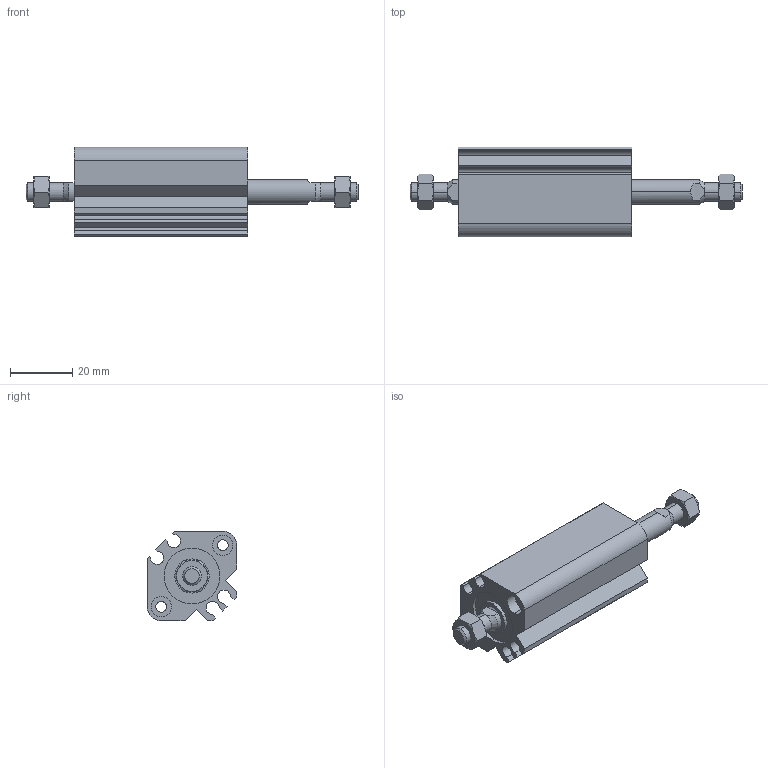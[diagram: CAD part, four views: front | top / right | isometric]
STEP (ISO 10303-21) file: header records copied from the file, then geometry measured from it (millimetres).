
FILE_DESCRIPTION (( 'STEP AP203' ), '1' );
FILE_NAME ('CCMB16-20M-P.STEP', '2020-08-10T11:06:09', ( '' ), ( '' ), 'SwSTEP 2.0', 'SolidWorks 2019', '' );
FILE_SCHEMA (( 'CONFIG_CONTROL_DESIGN' ));
Length unit declared in the file: millimetre
Products named in the file (1): CCMB16-20M-P
Bounding box: 107 x 29 x 29 mm (x, y, z)
Volume: 35119.2 mm3; surface area: 17610.3 mm2
Topology: 4 solids, 4 shells, 166 faces, 384 edges, 240 vertices
Faces by surface type: plane 66, cylinder 56, cone 44
Entity records: 5239 total; most frequent: CARTESIAN_POINT 1379, DIRECTION 806, ORIENTED_EDGE 768, EDGE_CURVE 384, AXIS2_PLACEMENT_3D 319, VERTEX_POINT 240, EDGE_LOOP 190, LINE 168
